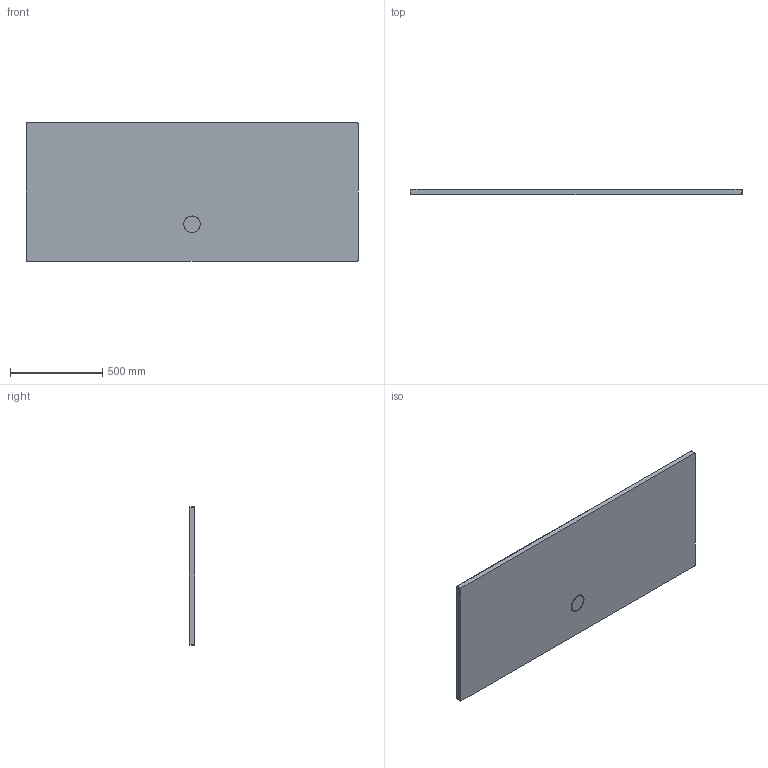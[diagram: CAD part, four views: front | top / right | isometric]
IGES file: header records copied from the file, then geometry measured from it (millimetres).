
Start section: SolidWorks IGES file using analytic representation for surfaces
Global section: file name: Y:\TKT\_PLIKI DLA ARCHITEKTÓW\02_AKRYL\BRODZIKI\seria SPACE MINERAL\IGS\B_M_75x180x1,5.IGS; native system: SolidWorks 2011; preprocessor: SolidWorks 2011; author: M.Szymanski; date: 180215.155219; units: millimetre
Bounding box: 1800 x 30 x 750 mm (x, y, z)
Surface area: 2865591.1 mm2 (no closed solid volume)
Topology: 0 solids, 0 shells, 61 faces, 737 edges, 734 vertices
Faces by surface type: bspline 39, revolution 22
